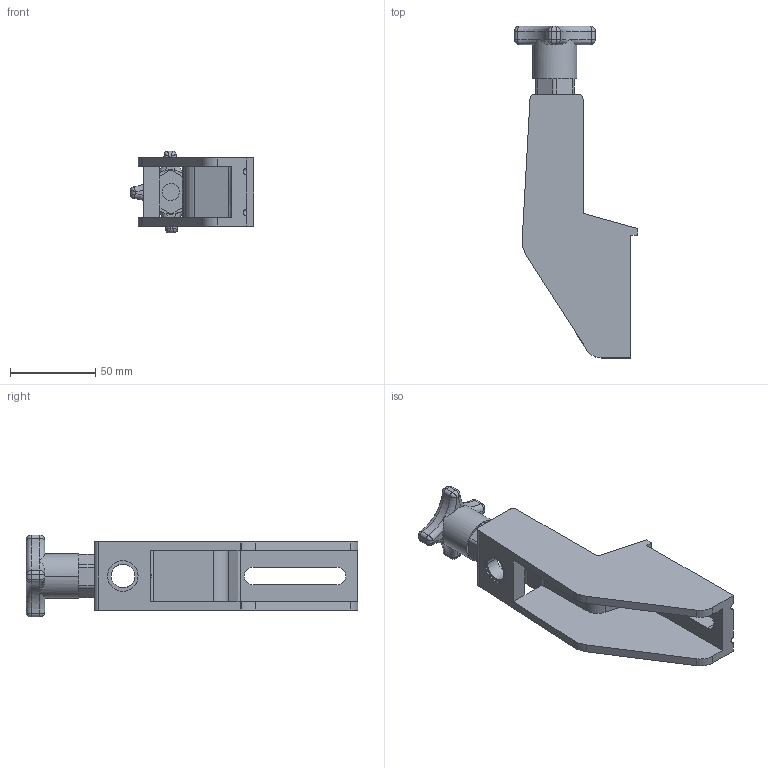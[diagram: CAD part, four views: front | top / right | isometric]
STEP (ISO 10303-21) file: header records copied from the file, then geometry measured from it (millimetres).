
FILE_DESCRIPTION (( 'STEP AP214' ), '1' );
FILE_NAME ('GH5 1.step', '2017-04-05T07:43:50', ( '' ), ( '' ), 'SwSTEP 2.0', 'SolidWorks 2015', '' );
FILE_SCHEMA (( 'AUTOMOTIVE_DESIGN' ));
Length unit declared in the file: millimetre
Products named in the file (1): GH5 1
Bounding box: 72.29 x 195 x 48.05 mm (x, y, z)
Volume: 133658.3 mm3; surface area: 44790.7 mm2
Topology: 2 solids, 2 shells, 136 faces, 366 edges, 215 vertices
Faces by surface type: cylinder 52, plane 50, bspline 20, torus 12, sphere 2
Entity records: 5815 total; most frequent: CARTESIAN_POINT 2463, ORIENTED_EDGE 692, DIRECTION 628, EDGE_CURVE 346, AXIS2_PLACEMENT_3D 228, VERTEX_POINT 213, LINE 172, VECTOR 172
